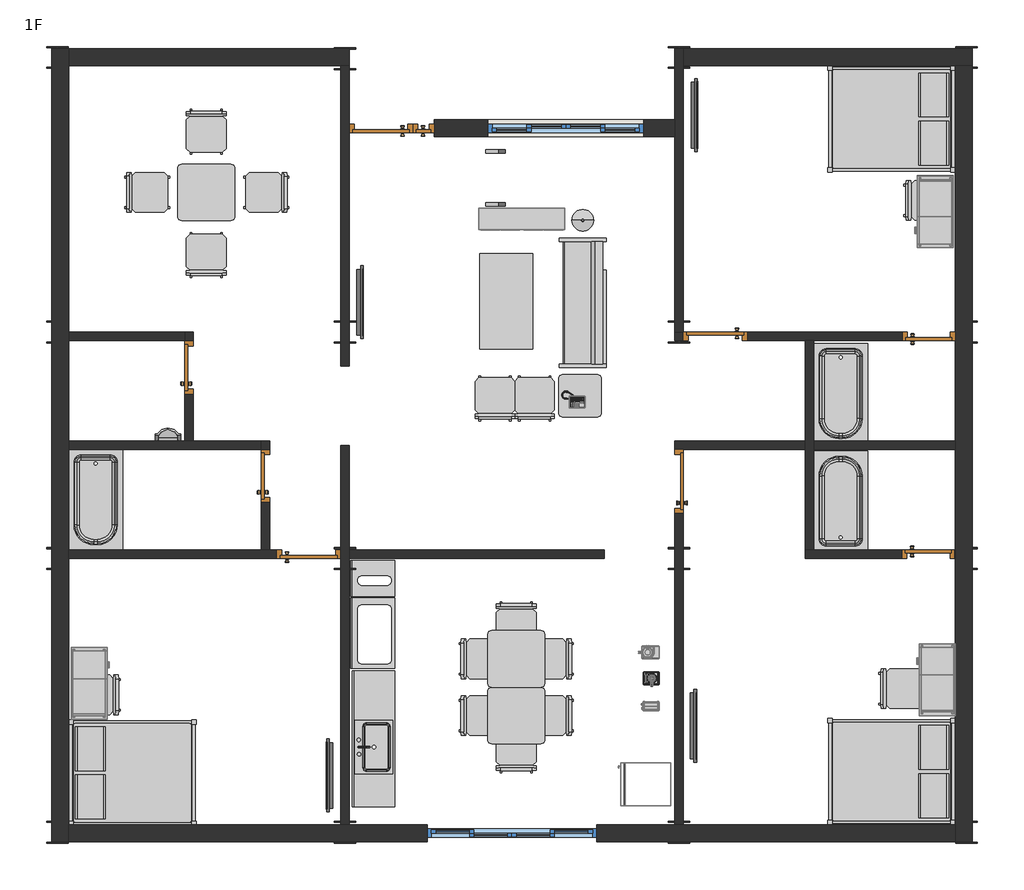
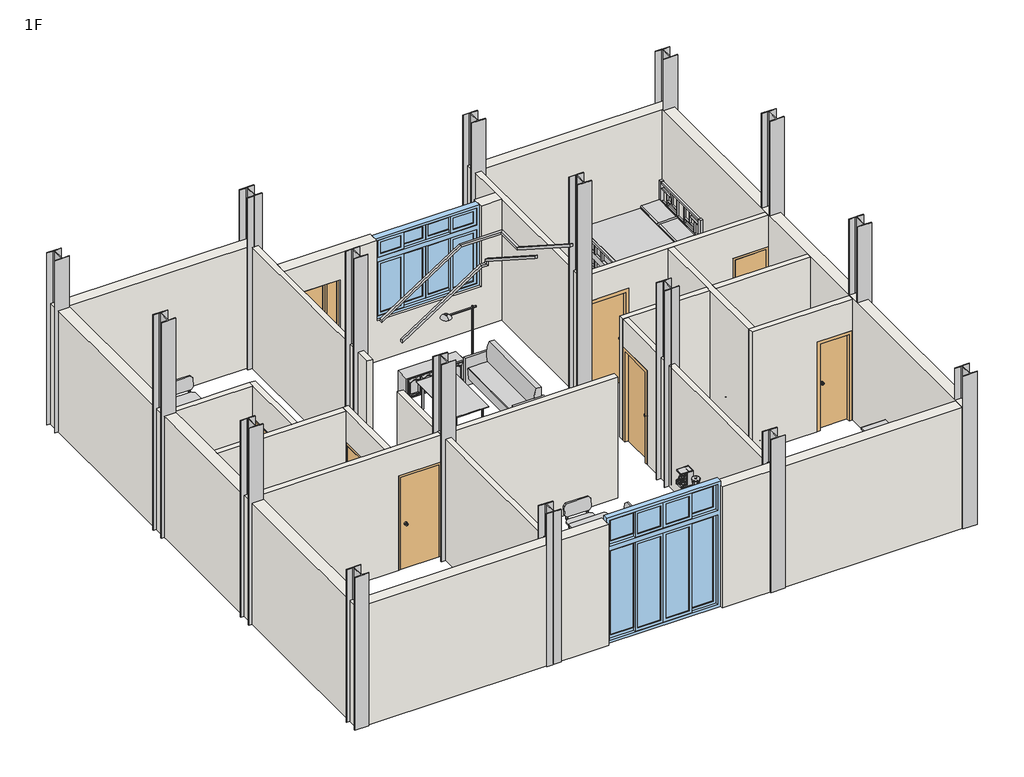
# One storey, incomplete: 31 furniture elements, 19 walls, 16 columns, 9 doors, 9 proxies, 4 flow terminals, 2 railings, 2 windows, 1 light fixture.
"""IFC4 building model written with IfcOpenShell, lengths in millimetres."""

from ifc_helpers import new_model, si_unit, point, frame, frame_2d, origin, origin_with_axes, place, context, project, spatial, polyline, circle_curve, trimmed, segment, composite_curve, outline, extrude, faceted_brep, transform, mapped, element, save
from components import specialty_equipment_52ff1dbe, specialty_equipment_45fd0e0a, specialty_equipment_c866d2f4, specialty_equipment_d125a757, specialty_equipment_4209ac2b, proxy_1030mm_ae075e29, proxy_1030mm_2e2320bc, uc_universal_column_column_100x200x97uc_fbc93eb8, uc_universal_column_column_100x200x97uc_c23a1a0a, uc_universal_column_column_100x200x97uc_8f00512b, uc_universal_column_column_100x200x97uc_f167816f, door_30_x_210_cm_06718960, door_75_x_200_cm_1c1e0038, door_75_x_200_cm_865d52c3, door_90_x_210_cm_a8ea8b61, door_90_x_210_cm_cb2f5c37, flow_terminal_5bd4dfce, flow_terminal_0a9030c2, flow_terminal_81ddfa0a, flow_terminal_4ae471c5, furniture_d72f1c28, furniture_8f68121f, furniture_4e1ab37b, furniture_edb10db8, furniture_984dc523, furniture_1500_x_1800mm_e6999785, furniture_1500_x_1800mm_307341c1, furniture_1830mm_a44c643f, furniture_60_x_60cm_7ca52646, furniture_80_x_80cm_8d78c78c, desk03_desk03_b31ff7f8, desk03_desk03_8cab2bc7, seating19_seating19_2658793b, seating19_seating19_12e8b1e3, light_fixture_4af38d8b, railing_ebe26a48, railing_cc37d2c5, window_220_x_180_cm_a244237b, window_240_x_300_cm_7bb334d8

model = new_model("IFC4")

# Units and contexts
model_context = context("Model", 3, world=origin())
ifc_project = project(units=[si_unit("LENGTHUNIT", "METRE", prefix="MILLI")], contexts=[model_context])

# Site, building, storey
site = spatial("IfcSite", under=ifc_project)
building = spatial("IfcBuilding", under=site)
storey = spatial("IfcBuildingStorey", under=building, Name="1F", Elevation=0.0)

# Proxies
placement = place(None, origin())
specialty_equipment_shape = specialty_equipment_52ff1dbe(model_context)
element("IfcBuildingElementProxy", 1, Name="Telephone04電話 : Telephone04電話", ObjectType="Telephone04電話 : Telephone04電話", at=placement, inside=storey, context=model_context, shape_type="MappedRepresentation", body=[
    mapped(specialty_equipment_shape, transform((741.7292845, 1034.8332542, 600.0), x_axis=(-1.0, 0.0, 0.0), y_axis=(0.0, -1.0, 0.0), z_axis=(0.0, 0.0, 1.0))),
])
specialty_equipment_2_shape = specialty_equipment_45fd0e0a(model_context)
element("IfcBuildingElementProxy", 2, Name="Refrigerator01冰箱 : Refrigerator01冰箱", ObjectType="Refrigerator01冰箱 : Refrigerator01冰箱", at=placement, inside=storey, context=model_context, shape_type="MappedRepresentation", body=[
    mapped(specialty_equipment_2_shape, transform((1952.7625889, -4145.0849984, 0.0), x_axis=(-1.0, 0.0, 0.0), y_axis=(0.0, -1.0, 0.0), z_axis=(0.0, 0.0, 1.0))),
])
specialty_equipment_3_shape = specialty_equipment_c866d2f4(model_context)
element("IfcBuildingElementProxy", 3, Name="咖啡機 : 咖啡機", ObjectType="咖啡機 : 咖啡機", at=placement, inside=storey, context=model_context, shape_type="MappedRepresentation", body=[
    mapped(specialty_equipment_3_shape, transform((1788.8313871, -2678.8167436, 880.0), x_axis=(0.0, 1.0, 0.0), y_axis=(-1.0, 0.0, 0.0), z_axis=(0.0, 0.0, 1.0))),
])
specialty_equipment_4_shape = specialty_equipment_d125a757(model_context)
element("IfcBuildingElementProxy", 4, Name="烤麵包機 : 烤麵包機", ObjectType="烤麵包機 : 烤麵包機", at=placement, inside=storey, context=model_context, shape_type="MappedRepresentation", body=[
    mapped(specialty_equipment_4_shape, transform((1788.8313871, -3278.8167436, 880.0), x_axis=(-1.0, 0.0, 0.0), y_axis=(0.0, -1.0, 0.0), z_axis=(0.0, 0.0, 1.0))),
])
specialty_equipment_5_shape = specialty_equipment_4209ac2b(model_context)
element("IfcBuildingElementProxy", 5, Name="果汁機 : 果汁機", ObjectType="果汁機 : 果汁機", at=placement, inside=storey, context=model_context, shape_type="MappedRepresentation", body=[
    mapped(specialty_equipment_5_shape, transform((1788.8313871, -2858.8167436, 880.0), x_axis=(-1.0, 0.0, 0.0), y_axis=(0.0, -1.0, 0.0), z_axis=(0.0, 0.0, 1.0))),
])
proxy_1030mm_shape = proxy_1030mm_ae075e29(model_context)
element("IfcBuildingElementProxy", 6, Name="電視 (2)-電漿 : 1030mm", ObjectType="電視 (2)-電漿 : 1030mm", at=placement, inside=storey, context=model_context, shape_type="MappedRepresentation", body=[
    mapped(proxy_1030mm_shape, transform((2238.6752533, 4949.0332564, 870.0), x_axis=(0.0, 0.9999999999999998, 0.0), y_axis=(-0.9999999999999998, 0.0, 0.0), z_axis=(0.0, 0.0, 1.0))),
])
element("IfcBuildingElementProxy", 7, Name="電視 (2)-電漿 : 1030mm", ObjectType="電視 (2)-電漿 : 1030mm", at=placement, inside=storey, context=model_context, shape_type="MappedRepresentation", body=[
    mapped(proxy_1030mm_shape, transform((-2821.0124791, -4266.6667436, 870.0), x_axis=(0.0, -0.9999999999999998, 0.0), y_axis=(0.9999999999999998, 0.0, 0.0), z_axis=(0.0, 0.0, 1.0))),
])
element("IfcBuildingElementProxy", 8, Name="電視 (2)-電漿 : 1030mm", ObjectType="電視 (2)-電漿 : 1030mm", at=placement, inside=storey, context=model_context, shape_type="MappedRepresentation", body=[
    mapped(proxy_1030mm_shape, transform((-2481.3247467, 2304.1344101, 870.0), x_axis=(0.0, 0.9999999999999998, 0.0), y_axis=(-0.9999999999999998, 0.0, 0.0), z_axis=(0.0, 0.0, 1.0))),
])
proxy_1030mm_2_shape = proxy_1030mm_2e2320bc(model_context)
element("IfcBuildingElementProxy", 9, Name="電視 (2)-電漿 : 1030mm", ObjectType="電視 (2)-電漿 : 1030mm", at=placement, inside=storey, context=model_context, shape_type="MappedRepresentation", body=[
    mapped(proxy_1030mm_2_shape, transform((2227.1349026, -3567.2667436, 870.0), x_axis=(0.0, -0.9999999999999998, 0.0), y_axis=(0.9999999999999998, 0.0, 0.0), z_axis=(0.0, 0.0, 1.0))),
])

# Columns
element("IfcColumn", 10, ObjectType="UC-Universal Column-Column : 100x200x97UC", at=placement, inside=storey, context=model_context, shape_type="SweptSolid", body=[
    extrude(outline(composite_curve([segment(polyline([(6281.4813871, -4973.4570793), (6281.4813871, -4988.8570793), (6148.9813871, -4988.8570793)]), True, "CONTINUOUS"), segment(trimmed(circle_curve(frame_2d((6148.9813871, -5004.0570793)), 15.2), [point((6148.9813871, -4988.8570793))], [point((6133.7813871, -5004.0570793))], True, "CARTESIAN"), True, "CONTINUOUS"), segment(polyline([(6133.7813871, -5004.0570793), (6133.7813871, -5250.7570793)]), True, "CONTINUOUS"), segment(trimmed(circle_curve(frame_2d((6148.9813871, -5250.7570793)), 15.2), [point((6133.7813871, -5250.7570793))], [point((6148.9813871, -5265.9570793))], True, "CARTESIAN"), True, "CONTINUOUS"), segment(polyline([(6148.9813871, -5265.9570793), (6281.4813871, -5265.9570793), (6281.4813871, -5281.3570793), (5976.1813871, -5281.3570793), (5976.1813871, -5265.9570793), (6108.6813871, -5265.9570793)]), True, "CONTINUOUS"), segment(trimmed(circle_curve(frame_2d((6108.6813871, -5250.7570793)), 15.2), [point((6108.6813871, -5265.9570793))], [point((6123.8813871, -5250.7570793))], True, "CARTESIAN"), True, "CONTINUOUS"), segment(polyline([(6123.8813871, -5250.7570793), (6123.8813871, -5004.0570793)]), True, "CONTINUOUS"), segment(trimmed(circle_curve(frame_2d((6108.6813871, -5004.0570793)), 15.2), [point((6123.8813871, -5004.0570793))], [point((6108.6813871, -4988.8570793))], True, "CARTESIAN"), True, "CONTINUOUS"), segment(polyline([(6108.6813871, -4988.8570793), (5976.1813871, -4988.8570793), (5976.1813871, -4973.4570793), (6281.4813871, -4973.4570793)]), True, "CONTINUOUS")], self_intersect=False)), origin_with_axes(), (0.0, 0.0, 1.0), 3410.0),
])
uc_universal_column_column_100x200x97uc_shape = uc_universal_column_column_100x200x97uc_fbc93eb8(model_context)
element("IfcColumn", 11, ObjectType="UC-Universal Column-Column : 100x200x97UC", at=placement, inside=storey, context=model_context, shape_type="MappedRepresentation", body=[
    mapped(uc_universal_column_column_100x200x97uc_shape, transform((-6711.1686129, 5821.1832564, 0.0), x_axis=(1.0, 0.0, 0.0), y_axis=(0.0, 1.0, 0.0), z_axis=(0.0, 0.0, 1.0))),
])
element("IfcColumn", 12, ObjectType="UC-Universal Column-Column : 100x200x97UC", at=placement, inside=storey, context=model_context, shape_type="MappedRepresentation", body=[
    mapped(uc_universal_column_column_100x200x97uc_shape, transform((-2651.1686129, 5801.1832564, 0.0), x_axis=(1.0, 0.0, 0.0), y_axis=(0.0, 1.0, 0.0), z_axis=(0.0, 0.0, 1.0))),
])
element("IfcColumn", 13, ObjectType="UC-Universal Column-Column : 100x200x97UC", at=placement, inside=storey, context=model_context, shape_type="MappedRepresentation", body=[
    mapped(uc_universal_column_column_100x200x97uc_shape, transform((2068.8313871, 5821.1832564, 0.0), x_axis=(1.0, 0.0, 0.0), y_axis=(0.0, 1.0, 0.0), z_axis=(0.0, 0.0, 1.0))),
])
element("IfcColumn", 14, ObjectType="UC-Universal Column-Column : 100x200x97UC", at=placement, inside=storey, context=model_context, shape_type="MappedRepresentation", body=[
    mapped(uc_universal_column_column_100x200x97uc_shape, transform((6128.8313871, 5821.1832564, 0.0), x_axis=(1.0, 0.0, 0.0), y_axis=(0.0, 1.0, 0.0), z_axis=(0.0, 0.0, 1.0))),
])
uc_universal_column_column_100x200x97uc_2_shape = uc_universal_column_column_100x200x97uc_c23a1a0a(model_context)
element("IfcColumn", 15, ObjectType="UC-Universal Column-Column : 100x200x97UC", at=placement, inside=storey, context=model_context, shape_type="MappedRepresentation", body=[
    mapped(uc_universal_column_column_100x200x97uc_2_shape, transform((6128.8313871, -1258.8167436, 0.0), x_axis=(1.0, 0.0, 0.0), y_axis=(0.0, 1.0, 0.0), z_axis=(0.0, 0.0, 1.0))),
])
element("IfcColumn", 16, ObjectType="UC-Universal Column-Column : 100x200x97UC", at=placement, inside=storey, context=model_context, shape_type="MappedRepresentation", body=[
    mapped(uc_universal_column_column_100x200x97uc_2_shape, transform((2068.8313871, -1258.8167436, 0.0), x_axis=(1.0, 0.0, 0.0), y_axis=(0.0, 1.0, 0.0), z_axis=(0.0, 0.0, 1.0))),
])
element("IfcColumn", 17, ObjectType="UC-Universal Column-Column : 100x200x97UC", at=placement, inside=storey, context=model_context, shape_type="MappedRepresentation", body=[
    mapped(uc_universal_column_column_100x200x97uc_2_shape, transform((-2651.1686129, -1258.8167436, 0.0), x_axis=(1.0, 0.0, 0.0), y_axis=(0.0, 1.0, 0.0), z_axis=(0.0, 0.0, 1.0))),
])
element("IfcColumn", 18, ObjectType="UC-Universal Column-Column : 100x200x97UC", at=placement, inside=storey, context=model_context, shape_type="MappedRepresentation", body=[
    mapped(uc_universal_column_column_100x200x97uc_2_shape, transform((-6711.1686129, -1258.8167436, 0.0), x_axis=(1.0, 0.0, 0.0), y_axis=(0.0, 1.0, 0.0), z_axis=(0.0, 0.0, 1.0))),
])
uc_universal_column_column_100x200x97uc_3_shape = uc_universal_column_column_100x200x97uc_8f00512b(model_context)
element("IfcColumn", 19, ObjectType="UC-Universal Column-Column : 100x200x97UC", at=placement, inside=storey, context=model_context, shape_type="MappedRepresentation", body=[
    mapped(uc_universal_column_column_100x200x97uc_3_shape, transform((2068.8313871, -5127.4070793, 0.0), x_axis=(1.0, 0.0, 0.0), y_axis=(0.0, 1.0, 0.0), z_axis=(0.0, 0.0, 1.0))),
])
element("IfcColumn", 20, ObjectType="UC-Universal Column-Column : 100x200x97UC", at=placement, inside=storey, context=model_context, shape_type="MappedRepresentation", body=[
    mapped(uc_universal_column_column_100x200x97uc_3_shape, transform((-6711.1686129, -5127.4070793, 0.0), x_axis=(1.0, 0.0, 0.0), y_axis=(0.0, 1.0, 0.0), z_axis=(0.0, 0.0, 1.0))),
])
element("IfcColumn", 21, ObjectType="UC-Universal Column-Column : 100x200x97UC", at=placement, inside=storey, context=model_context, shape_type="MappedRepresentation", body=[
    mapped(uc_universal_column_column_100x200x97uc_3_shape, transform((-2651.1686129, -5127.4070793, 0.0), x_axis=(1.0, 0.0, 0.0), y_axis=(0.0, 1.0, 0.0), z_axis=(0.0, 0.0, 1.0))),
])
uc_universal_column_column_100x200x97uc_4_shape = uc_universal_column_column_100x200x97uc_f167816f(model_context)
element("IfcColumn", 22, ObjectType="UC-Universal Column-Column : 100x200x97UC", at=placement, inside=storey, context=model_context, shape_type="MappedRepresentation", body=[
    mapped(uc_universal_column_column_100x200x97uc_4_shape, transform((-6711.1686129, 1941.1832564, 0.0), x_axis=(1.0, 0.0, 0.0), y_axis=(0.0, 1.0, 0.0), z_axis=(0.0, 0.0, 1.0))),
])
element("IfcColumn", 23, ObjectType="UC-Universal Column-Column : 100x200x97UC", at=placement, inside=storey, context=model_context, shape_type="MappedRepresentation", body=[
    mapped(uc_universal_column_column_100x200x97uc_4_shape, transform((-2651.1686129, 1941.1832564, 0.0), x_axis=(1.0, 0.0, 0.0), y_axis=(0.0, 1.0, 0.0), z_axis=(0.0, 0.0, 1.0))),
])
element("IfcColumn", 24, ObjectType="UC-Universal Column-Column : 100x200x97UC", at=placement, inside=storey, context=model_context, shape_type="MappedRepresentation", body=[
    mapped(uc_universal_column_column_100x200x97uc_4_shape, transform((2068.8313871, 1941.1832564, 0.0), x_axis=(1.0, 0.0, 0.0), y_axis=(0.0, 1.0, 0.0), z_axis=(0.0, 0.0, 1.0))),
])
element("IfcColumn", 25, ObjectType="UC-Universal Column-Column : 100x200x97UC", at=placement, inside=storey, context=model_context, shape_type="MappedRepresentation", body=[
    mapped(uc_universal_column_column_100x200x97uc_4_shape, transform((6128.8313871, 1941.1832564, 0.0), x_axis=(1.0, 0.0, 0.0), y_axis=(0.0, 1.0, 0.0), z_axis=(0.0, 0.0, 1.0))),
])

# Doors
door_30_x_210_cm_shape = door_30_x_210_cm_06718960(model_context)
element("IfcDoor", 26, ObjectType="單開-矩形- (1) : 30 x 210 cm", at=placement, inside=storey, context=model_context, shape_type="MappedRepresentation", body=[
    mapped(door_30_x_210_cm_shape, transform((-1541.1686129, 4611.1832564, 0.0), x_axis=(-1.0, 0.0, 0.0), y_axis=(0.0, -1.0, 0.0), z_axis=(0.0, 0.0, 1.0))),
])
door_75_x_200_cm_shape = door_75_x_200_cm_1c1e0038(model_context)
element("IfcDoor", 27, ObjectType="單開-矩形- (1) : 75 x 200 cm", at=placement, inside=storey, context=model_context, shape_type="MappedRepresentation", body=[
    mapped(door_75_x_200_cm_shape, transform((5588.8313871, -988.8167436, 0.0), x_axis=(-1.0, 0.0, 0.0), y_axis=(0.0, -1.0, 0.0), z_axis=(0.0, 0.0, 1.0))),
])
element("IfcDoor", 28, ObjectType="單開-矩形- (1) : 75 x 200 cm", at=placement, inside=storey, context=model_context, shape_type="MappedRepresentation", body=[
    mapped(door_75_x_200_cm_shape, transform((-5061.1686129, 1441.1832564, 0.0), x_axis=(0.0, -1.0, 0.0), y_axis=(1.0, 0.0, 0.0), z_axis=(0.0, 0.0, 1.0))),
])
element("IfcDoor", 29, ObjectType="單開-矩形- (1) : 75 x 200 cm", at=placement, inside=storey, context=model_context, shape_type="MappedRepresentation", body=[
    mapped(door_75_x_200_cm_shape, transform((-3981.1686129, -93.8167436, 0.0), x_axis=(0.0, -1.0, 0.0), y_axis=(1.0, 0.0, 0.0), z_axis=(0.0, 0.0, 1.0))),
])
door_75_x_200_cm_2_shape = door_75_x_200_cm_865d52c3(model_context)
element("IfcDoor", 30, ObjectType="單開-矩形- (1) : 75 x 200 cm", at=placement, inside=storey, context=model_context, shape_type="MappedRepresentation", body=[
    mapped(door_75_x_200_cm_2_shape, transform((5593.8313871, 1671.1832564, 0.0), x_axis=(-1.0, 0.0, 0.0), y_axis=(0.0, -1.0, 0.0), z_axis=(0.0, 0.0, 1.0))),
])
door_90_x_210_cm_shape = door_90_x_210_cm_a8ea8b61(model_context)
element("IfcDoor", 31, ObjectType="單開-矩形- (1) : 90 x 210 cm", at=placement, inside=storey, context=model_context, shape_type="MappedRepresentation", body=[
    mapped(door_90_x_210_cm_shape, transform((-2141.1686129, 4611.1832564, 0.0), x_axis=(1.0, 0.0, 0.0), y_axis=(0.0, 1.0, 0.0), z_axis=(0.0, 0.0, 1.0))),
])
door_90_x_210_cm_2_shape = door_90_x_210_cm_cb2f5c37(model_context)
element("IfcDoor", 32, ObjectType="單開-矩形- (1) : 90 x 210 cm", at=placement, inside=storey, context=model_context, shape_type="MappedRepresentation", body=[
    mapped(door_90_x_210_cm_2_shape, transform((-3161.1686129, -1408.8167436, 0.0), x_axis=(-1.0, 0.0, 0.0), y_axis=(0.0, -1.0, 0.0), z_axis=(0.0, 0.0, 1.0))),
])
element("IfcDoor", 33, ObjectType="單開-矩形- (1) : 90 x 210 cm", at=placement, inside=storey, context=model_context, shape_type="MappedRepresentation", body=[
    mapped(door_90_x_210_cm_2_shape, transform((2578.8313871, 2091.1832564, 0.0), x_axis=(1.0, 0.0, 0.0), y_axis=(0.0, 1.0, 0.0), z_axis=(0.0, 0.0, 1.0))),
])
element("IfcDoor", 34, ObjectType="單開-矩形- (1) : 90 x 210 cm", at=placement, inside=storey, context=model_context, shape_type="MappedRepresentation", body=[
    mapped(door_90_x_210_cm_2_shape, transform((2278.8313871, -168.8167436, 0.0), x_axis=(0.0, -1.0, 0.0), y_axis=(1.0, 0.0, 0.0), z_axis=(0.0, 0.0, 1.0))),
])

# Flow terminals
flow_terminal_shape = flow_terminal_5bd4dfce(model_context)
element("IfcFlowTerminal", 35, ObjectType="小便斗 (2)-含牆 : 小便斗 (2)-含牆", at=placement, inside=storey, context=model_context, shape_type="MappedRepresentation", body=[
    mapped(flow_terminal_shape, transform((-5040.4083618, 341.1832564, 0.0), x_axis=(1.0, 0.0, 0.0), y_axis=(0.0, 1.0, 0.0), z_axis=(0.0, 0.0, 1.0))),
])
flow_terminal_2_shape = flow_terminal_0a9030c2(model_context)
element("IfcFlowTerminal", 36, ObjectType="浴缸-矩形(含牆) : 浴缸-矩形(含牆)", at=placement, inside=storey, context=model_context, shape_type="MappedRepresentation", body=[
    mapped(flow_terminal_2_shape, transform((-6671.1686129, -829.4197123, 0.0), x_axis=(0.0, -1.0, 0.0), y_axis=(1.0, 0.0, 0.0), z_axis=(0.0, 0.0, 1.0))),
])
flow_terminal_3_shape = flow_terminal_81ddfa0a(model_context)
element("IfcFlowTerminal", 37, ObjectType="浴缸-矩形(含牆) : 浴缸-矩形(含牆)", at=placement, inside=storey, context=model_context, shape_type="MappedRepresentation", body=[
    mapped(flow_terminal_3_shape, transform((3908.8313871, 670.5802877, 0.0), x_axis=(0.0, -1.0, 0.0), y_axis=(1.0, 0.0, 0.0), z_axis=(0.0, 0.0, 1.0))),
])
flow_terminal_4_shape = flow_terminal_4ae471c5(model_context)
element("IfcFlowTerminal", 38, ObjectType="浴缸-矩形(含牆) : 浴缸-矩形(含牆)", at=placement, inside=storey, context=model_context, shape_type="MappedRepresentation", body=[
    mapped(flow_terminal_4_shape, transform((3908.8313871, -48.2137748, 0.0), x_axis=(0.0, 1.0, 0.0), y_axis=(-1.0, 0.0, 0.0), z_axis=(0.0, 0.0, 1.0))),
])

# Furniture
furniture_shape = furniture_d72f1c28(model_context)
element("IfcFurniture", 39, ObjectType="桌 (2)-方型玻璃 : 大茶几-135 x 75 x 60cm", at=placement, inside=storey, context=model_context, shape_type="MappedRepresentation", body=[
    mapped(furniture_shape, transform((-318.2520372, 1602.4785296, 0.0), x_axis=(1.0, 0.0, 0.0), y_axis=(0.0, 1.0, 0.0), z_axis=(0.0, 0.0, 1.0))),
])
furniture_2_shape = furniture_8f68121f(model_context)
element("IfcFurniture", 40, ObjectType="Wall Cabinet 4 Door 48x12x18鞋櫃4門L122xW30xH46 : Wall Cabinet 4 Door 48x12x18鞋櫃4門L122xW30xH46", at=placement, inside=storey, context=model_context, shape_type="MappedRepresentation", body=[
    mapped(furniture_2_shape, transform((-762.5618561, 3693.5687618, 0.0), x_axis=(0.0, -1.0, 0.0), y_axis=(1.0, 0.0, 0.0), z_axis=(0.0, 0.0, 1.0))),
])
furniture_3_shape = furniture_4e1ab37b(model_context)
element("IfcFurniture", 41, ObjectType="流理台面 (1)-方型孔 : 600mm 深", at=placement, inside=storey, context=model_context, shape_type="MappedRepresentation", body=[
    mapped(furniture_3_shape, transform((-2571.0402864, -1544.0286072, 180.0), x_axis=(0.0, 1.0, 0.0), y_axis=(-1.0, 0.0, 0.0), z_axis=(0.0, 0.0, 1.0))),
])
furniture_4_shape = furniture_edb10db8(model_context)
element("IfcFurniture", 42, ObjectType="流理台面 (3)-含水槽 : 600mm 深", at=placement, inside=storey, context=model_context, shape_type="MappedRepresentation", body=[
    mapped(furniture_4_shape, transform((-2546.0402864, -3567.7602764, 0.0), x_axis=(0.0, 1.0, 0.0), y_axis=(-1.0, 0.0, 0.0), z_axis=(0.0, 0.0, 1.0))),
])
furniture_5_shape = furniture_984dc523(model_context)
element("IfcFurniture", 43, ObjectType="流理台面 (1)-方型孔 : 600mm 深", at=placement, inside=storey, context=model_context, shape_type="MappedRepresentation", body=[
    mapped(furniture_5_shape, transform((-2571.0402864, -525.3610809, 180.0), x_axis=(0.0, 1.0, 0.0), y_axis=(-1.0, 0.0, 0.0), z_axis=(0.0, 0.0, 1.0))),
])
furniture_1500_x_1800mm_shape = furniture_1500_x_1800mm_e6999785(model_context)
element("IfcFurniture", 44, ObjectType="床 (6)-雙人含床架 : 1500 x 1800mm", at=placement, inside=storey, context=model_context, shape_type="MappedRepresentation", body=[
    mapped(furniture_1500_x_1800mm_shape, transform((5968.8313871, 4951.1832564, 0.0), x_axis=(0.0, 1.0000000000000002, 0.0), y_axis=(-1.0000000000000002, 0.0, 0.0), z_axis=(0.0, 0.0, 1.0))),
])
element("IfcFurniture", 45, ObjectType="床 (6)-雙人含床架 : 1500 x 1800mm", at=placement, inside=storey, context=model_context, shape_type="MappedRepresentation", body=[
    mapped(furniture_1500_x_1800mm_shape, transform((-6551.1686129, -4286.8223339, 0.0), x_axis=(0.0, -1.0000000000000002, 0.0), y_axis=(1.0000000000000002, 0.0, 0.0), z_axis=(0.0, 0.0, 1.0))),
])
furniture_1500_x_1800mm_2_shape = furniture_1500_x_1800mm_307341c1(model_context)
element("IfcFurniture", 46, ObjectType="床 (6)-雙人含床架 : 1500 x 1800mm", at=placement, inside=storey, context=model_context, shape_type="MappedRepresentation", body=[
    mapped(furniture_1500_x_1800mm_2_shape, transform((5968.8313871, -4268.8167436, 0.0), x_axis=(0.0, -1.0000000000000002, 0.0), y_axis=(1.0000000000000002, 0.0, 0.0), z_axis=(0.0, 0.0, 1.0))),
])
furniture_1830mm_shape = furniture_1830mm_a44c643f(model_context)
element("IfcFurniture", 47, ObjectType="沙發 (2) : 1830mm", at=placement, inside=storey, context=model_context, shape_type="MappedRepresentation", body=[
    mapped(furniture_1830mm_shape, transform((562.6772888, 2426.5537483, 0.0), x_axis=(0.0, -1.0, 0.0), y_axis=(1.0, 0.0, 0.0), z_axis=(0.0, 0.0, 1.0))),
])
furniture_60_x_60cm_shape = furniture_60_x_60cm_7ca52646(model_context)
element("IfcFurniture", 48, ObjectType="桌 (3)-方型 : 60 x 60cm", at=placement, inside=storey, context=model_context, shape_type="MappedRepresentation", body=[
    mapped(furniture_60_x_60cm_shape, transform((365.0977568, 888.7832564, 0.0), x_axis=(1.0, 0.0, 0.0), y_axis=(0.0, 1.0, 0.0), z_axis=(0.0, 0.0, 1.0))),
])
furniture_80_x_80cm_shape = furniture_80_x_80cm_8d78c78c(model_context)
element("IfcFurniture", 49, ObjectType="桌 (3)-方型 : 80 x 80cm", at=placement, inside=storey, context=model_context, shape_type="MappedRepresentation", body=[
    mapped(furniture_80_x_80cm_shape, transform((-78.7686129, -3080.347579, 0.0), x_axis=(0.0, 1.0, 0.0), y_axis=(-1.0, 0.0, 0.0), z_axis=(0.0, 0.0, 1.0))),
])
element("IfcFurniture", 50, ObjectType="桌 (3)-方型 : 80 x 80cm", at=placement, inside=storey, context=model_context, shape_type="MappedRepresentation", body=[
    mapped(furniture_80_x_80cm_shape, transform((-78.7686129, -3880.347579, 0.0), x_axis=(0.0, 1.0, 0.0), y_axis=(-1.0, 0.0, 0.0), z_axis=(0.0, 0.0, 1.0))),
])
element("IfcFurniture", 51, ObjectType="桌 (3)-方型 : 80 x 80cm", at=placement, inside=storey, context=model_context, shape_type="MappedRepresentation", body=[
    mapped(furniture_80_x_80cm_shape, transform((-4456.1147744, 3511.0757779, 0.0), x_axis=(0.0, 1.0, 0.0), y_axis=(-1.0, 0.0, 0.0), z_axis=(0.0, 0.0, 1.0))),
])
desk03_desk03_shape = desk03_desk03_b31ff7f8(model_context)
element("IfcFurniture", 52, ObjectType="Desk03 : Desk03", at=placement, inside=storey, context=model_context, shape_type="MappedRepresentation", body=[
    mapped(desk03_desk03_shape, transform((5941.4156351, 4147.2734798, 0.0), x_axis=(-1.0, 0.0, 0.0), y_axis=(0.0, -1.0, 0.0), z_axis=(0.0, 0.0, 1.0))),
])
element("IfcFurniture", 53, ObjectType="Desk03 : Desk03", at=placement, inside=storey, context=model_context, shape_type="MappedRepresentation", body=[
    mapped(desk03_desk03_shape, transform((-6518.1420075, -3531.1700289, 0.0), x_axis=(1.0, 0.0, 0.0), y_axis=(0.0, 1.0, 0.0), z_axis=(0.0, 0.0, 1.0))),
])
desk03_desk03_2_shape = desk03_desk03_8cab2bc7(model_context)
element("IfcFurniture", 54, ObjectType="Desk03 : Desk03", at=placement, inside=storey, context=model_context, shape_type="MappedRepresentation", body=[
    mapped(desk03_desk03_2_shape, transform((5968.8313871, -3478.8167436, 0.0), x_axis=(-1.0, 0.0, 0.0), y_axis=(0.0, -1.0, 0.0), z_axis=(0.0, 0.0, 1.0))),
])
seating19_seating19_shape = seating19_seating19_2658793b(model_context)
element("IfcFurniture", 55, ObjectType="Seating19 : Seating19", at=placement, inside=storey, context=model_context, shape_type="MappedRepresentation", body=[
    mapped(seating19_seating19_shape, transform((28.8313871, 1296.1832564, 0.0), x_axis=(0.0, 1.0, 0.0), y_axis=(-1.0, 0.0, 0.0), z_axis=(0.0, 0.0, 1.0))),
])
element("IfcFurniture", 56, ObjectType="Seating19 : Seating19", at=placement, inside=storey, context=model_context, shape_type="MappedRepresentation", body=[
    mapped(seating19_seating19_shape, transform((-531.1686129, 1296.1832564, 0.0), x_axis=(0.0, 1.0, 0.0), y_axis=(-1.0, 0.0, 0.0), z_axis=(0.0, 0.0, 1.0))),
])
element("IfcFurniture", 57, ObjectType="Seating19 : Seating19", at=placement, inside=storey, context=model_context, shape_type="MappedRepresentation", body=[
    mapped(seating19_seating19_shape, transform((5853.4156351, 3801.2734798, 0.0), x_axis=(1.0, 0.0, 0.0), y_axis=(0.0, 1.0, 0.0), z_axis=(0.0, 0.0, 1.0))),
])
element("IfcFurniture", 58, ObjectType="Seating19 : Seating19", at=placement, inside=storey, context=model_context, shape_type="MappedRepresentation", body=[
    mapped(seating19_seating19_shape, transform((-34.3686129, -3476.6139487, 0.0), x_axis=(-1.0, 0.0, 0.0), y_axis=(0.0, -1.0, 0.0), z_axis=(0.0, 0.0, 1.0))),
])
element("IfcFurniture", 59, ObjectType="Seating19 : Seating19", at=placement, inside=storey, context=model_context, shape_type="MappedRepresentation", body=[
    mapped(seating19_seating19_shape, transform((-34.3686129, -2676.6139487, 0.0), x_axis=(-1.0, 0.0, 0.0), y_axis=(0.0, -1.0, 0.0), z_axis=(0.0, 0.0, 1.0))),
])
element("IfcFurniture", 60, ObjectType="Seating19 : Seating19", at=placement, inside=storey, context=model_context, shape_type="MappedRepresentation", body=[
    mapped(seating19_seating19_shape, transform((-231.1686129, -2479.8139487, 0.0), x_axis=(0.0, -1.0, 0.0), y_axis=(1.0, 0.0, 0.0), z_axis=(0.0, 0.0, 1.0))),
])
element("IfcFurniture", 61, ObjectType="Seating19 : Seating19", at=placement, inside=storey, context=model_context, shape_type="MappedRepresentation", body=[
    mapped(seating19_seating19_shape, transform((-427.9686129, -2676.6139487, 0.0), x_axis=(1.0, 0.0, 0.0), y_axis=(0.0, 1.0, 0.0), z_axis=(0.0, 0.0, 1.0))),
])
element("IfcFurniture", 62, ObjectType="Seating19 : Seating19", at=placement, inside=storey, context=model_context, shape_type="MappedRepresentation", body=[
    mapped(seating19_seating19_shape, transform((-427.9686129, -3476.6139487, 0.0), x_axis=(1.0, 0.0, 0.0), y_axis=(0.0, 1.0, 0.0), z_axis=(0.0, 0.0, 1.0))),
])
element("IfcFurniture", 63, ObjectType="Seating19 : Seating19", at=placement, inside=storey, context=model_context, shape_type="MappedRepresentation", body=[
    mapped(seating19_seating19_shape, transform((-231.1686129, -3673.4139487, 0.0), x_axis=(0.0, 1.0000000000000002, 0.0), y_axis=(-1.0000000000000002, 0.0, 0.0), z_axis=(0.0, 0.0, 1.0))),
])
element("IfcFurniture", 64, ObjectType="Seating19 : Seating19", at=placement, inside=storey, context=model_context, shape_type="MappedRepresentation", body=[
    mapped(seating19_seating19_shape, transform((-6430.1420075, -3185.1700289, 0.0), x_axis=(-1.0, 0.0, 0.0), y_axis=(0.0, -1.0, 0.0), z_axis=(0.0, 0.0, 1.0))),
])
element("IfcFurniture", 65, ObjectType="Seating19 : Seating19", at=placement, inside=storey, context=model_context, shape_type="MappedRepresentation", body=[
    mapped(seating19_seating19_shape, transform((-4051.1686129, 3914.8094081, 0.0), x_axis=(-1.0, 0.0, 0.0), y_axis=(0.0, -1.0, 0.0), z_axis=(0.0, 0.0, 1.0))),
])
element("IfcFurniture", 66, ObjectType="Seating19 : Seating19", at=placement, inside=storey, context=model_context, shape_type="MappedRepresentation", body=[
    mapped(seating19_seating19_shape, transform((-4608.5147744, 4481.1832564, 0.0), x_axis=(0.0, -1.0, 0.0), y_axis=(1.0, 0.0, 0.0), z_axis=(0.0, 0.0, 1.0))),
])
element("IfcFurniture", 67, ObjectType="Seating19 : Seating19", at=placement, inside=storey, context=model_context, shape_type="MappedRepresentation", body=[
    mapped(seating19_seating19_shape, transform((-5151.1686129, 3914.8094081, 0.0), x_axis=(1.0, 0.0, 0.0), y_axis=(0.0, 1.0, 0.0), z_axis=(0.0, 0.0, 1.0))),
])
element("IfcFurniture", 68, ObjectType="Seating19 : Seating19", at=placement, inside=storey, context=model_context, shape_type="MappedRepresentation", body=[
    mapped(seating19_seating19_shape, transform((-4608.5147744, 3321.1832564, 0.0), x_axis=(0.0, 1.0000000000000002, 0.0), y_axis=(-1.0000000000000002, 0.0, 0.0), z_axis=(0.0, 0.0, 1.0))),
])
seating19_seating19_2_shape = seating19_seating19_12e8b1e3(model_context)
element("IfcFurniture", 69, ObjectType="Seating19 : Seating19", at=placement, inside=storey, context=model_context, shape_type="MappedRepresentation", body=[
    mapped(seating19_seating19_2_shape, transform((5500.4312829, -3098.8167436, 0.0), x_axis=(1.0, 0.0, 0.0), y_axis=(0.0, 1.0, 0.0), z_axis=(0.0, 0.0, 1.0))),
])

# Light fixture
light_fixture_shape = light_fixture_4af38d8b(model_context)
element("IfcLightFixture", 70, ObjectType="立燈 (4)-單臂式 : 150 瓦鹵素燈", at=placement, inside=storey, context=model_context, shape_type="MappedRepresentation", body=[
    mapped(light_fixture_shape, transform((707.6313871, 3521.1832564, 0.0), x_axis=(0.0, 1.0, 0.0), y_axis=(-1.0, 0.0, 0.0), z_axis=(0.0, 0.0, 1.0))),
])

# Railings
railing_shape = railing_ebe26a48(model_context)
element("IfcRailing", 71, ObjectType="900mm 方管", at=placement, inside=storey, context=model_context, shape_type="MappedRepresentation", body=[
    mapped(railing_shape, transform((0.0, 0.0, 0.0), x_axis=(1.0, 0.0, 0.0), y_axis=(0.0, 1.0, 0.0), z_axis=(0.0, 0.0, 1.0))),
])
railing_2_shape = railing_cc37d2c5(model_context)
element("IfcRailing", 72, ObjectType="900mm 方管", at=placement, inside=storey, context=model_context, shape_type="MappedRepresentation", body=[
    mapped(railing_2_shape, transform((0.0, 0.0, 0.0), x_axis=(1.0, 0.0, 0.0), y_axis=(0.0, 1.0, 0.0), z_axis=(0.0, 0.0, 1.0))),
])

# Walls
element("IfcWall", 73, ObjectType="RC 牆 24cM", at=placement, inside=storey, context=model_context, shape_type="Brep", body=[
    faceted_brep([(2128.8313871, 5701.1832564, 0.0), (5968.8313871, 5701.1832564, 0.0), (6208.8313871, 5701.1832564, 0.0), (6208.8313871, 5701.1832564, 2700.0), (5968.8313871, 5701.1832564, 2700.0), (2128.8313871, 5701.1832564, 2700.0), (2128.8313871, 5941.1832564, 0.0), (2128.8313871, 5941.1832564, 2700.0), (6208.8313871, 5941.1832564, 2700.0), (6208.8313871, 5941.1832564, 0.0)], [[[0, 1, 2, 3, 4, 5]], [[6, 7, 8, 9]], [[2, 1, 0, 6, 9]], [[5, 4, 3, 8, 7]], [[3, 2, 9, 8]], [[0, 5, 7, 6]]]),
])
element("IfcWall", 74, ObjectType="RC 牆 24cM", at=placement, inside=storey, context=model_context, shape_type="SweptSolid", body=[
    extrude(outline(polyline([(5968.8313871, -5258.8167436), (5968.8313871, 5701.1832564), (6208.8313871, 5701.1832564), (6208.8313871, -5258.8167436), (5968.8313871, -5258.8167436)])), origin_with_axes(), (0.0, 0.0, 1.0), 2700.0),
])
element("IfcWall", 75, ObjectType="RC 牆 24cM", at=placement, inside=storey, context=model_context, shape_type="Brep", body=[
    faceted_brep([(-6551.1686129, -5258.8167436, 0.0), (-6551.1686129, 5701.1832564, 0.0), (-6551.1686129, 5941.1832564, 0.0), (-6551.1686129, 5941.1832564, 2700.0), (-6551.1686129, 5701.1832564, 2700.0), (-6551.1686129, -5258.8167436, 2700.0), (-6791.1686129, -5258.8167436, 0.0), (-6791.1686129, -5258.8167436, 2700.0), (-6791.1686129, 5941.1832564, 2700.0), (-6791.1686129, 5941.1832564, 0.0)], [[[0, 1, 2, 3, 4, 5]], [[6, 7, 8, 9]], [[2, 1, 0, 6, 9]], [[5, 4, 3, 8, 7]], [[3, 2, 9, 8]], [[0, 5, 7, 6]]]),
])
element("IfcWall", 76, ObjectType="RC 牆 24cM", at=placement, inside=storey, context=model_context, shape_type="SweptSolid", body=[
    extrude(outline(polyline([(0.0, 2008.8313871), (2700.0, 2008.8313871), (2700.0, 1568.8313871), (900.0, 1568.8313871), (900.0, -631.1686129), (2700.0, -631.1686129), (2700.0, -2591.1686129), (2100.0, -2591.1686129), (2100.0, -1391.1686129), (0.0, -1391.1686129), (0.0, 2008.8313871)])), frame((0.0, 4701.1832564, 0.0), z_axis=(0.0, 1.0, 0.0), x_axis=(0.0, 0.0, 1.0)), (0.0, 0.0, 1.0), 240.0),
])
element("IfcWall", 77, ObjectType="RC 牆 24cM", at=placement, inside=storey, context=model_context, shape_type="Brep", body=[
    faceted_brep([(-6551.1686129, 5701.1832564, 0.0), (-2711.1686129, 5701.1832564, 0.0), (-2591.1686129, 5701.1832564, 0.0), (-2591.1686129, 5701.1832564, 2700.0), (-2711.1686129, 5701.1832564, 2700.0), (-6551.1686129, 5701.1832564, 2700.0), (-6551.1686129, 5941.1832564, 0.0), (-6551.1686129, 5941.1832564, 2700.0), (-2591.1686129, 5941.1832564, 2700.0), (-2591.1686129, 5941.1832564, 0.0)], [[[0, 1, 2, 3, 4, 5]], [[6, 7, 8, 9]], [[2, 1, 0, 6, 9]], [[5, 4, 3, 8, 7]], [[3, 2, 9, 8]], [[0, 5, 7, 6]]]),
])
element("IfcWall", 78, ObjectType="RC 牆 12cm", at=placement, inside=storey, context=model_context, shape_type="Brep", body=[
    faceted_brep([(-2711.1686129, 5701.1832564, 0.0), (-2711.1686129, 1461.2832564, 0.0), (-2711.1686129, 1461.2832564, 2700.0), (-2711.1686129, 5701.1832564, 2700.0), (-2591.1686129, 5701.1832564, 0.0), (-2591.1686129, 5701.1832564, 2700.0), (-2591.1686129, 4941.1832564, 2700.0), (-2591.1686129, 4701.1832564, 2700.0), (-2591.1686129, 1461.2832564, 2700.0), (-2591.1686129, 1461.2832564, 0.0)], [[[0, 1, 2, 3]], [[4, 5, 6, 7, 8, 9]], [[1, 0, 4, 9]], [[2, 1, 9, 8]], [[3, 2, 8, 7, 6, 5]], [[0, 3, 5, 4]]]),
])
element("IfcWall", 79, ObjectType="RC 牆 12cm", at=placement, inside=storey, context=model_context, shape_type="Brep", body=[
    faceted_brep([(2128.8313871, 1941.1832564, 0.0), (2128.8313871, 5701.1832564, 0.0), (2128.8313871, 5941.1832564, 0.0), (2128.8313871, 5941.1832564, 2700.0), (2128.8313871, 5701.1832564, 2700.0), (2128.8313871, 1941.1832564, 2700.0), (2008.8313871, 1941.1832564, 0.0), (2008.8313871, 1941.1832564, 2700.0), (2008.8313871, 4701.1832564, 2700.0), (2008.8313871, 4941.1832564, 2700.0), (2008.8313871, 5941.1832564, 2700.0), (2008.8313871, 5941.1832564, 0.0), (2008.8313871, 4941.1832564, 0.0), (2008.8313871, 4701.1832564, 0.0)], [[[0, 1, 2, 3, 4, 5]], [[6, 7, 8, 9, 10, 11, 12, 13]], [[2, 1, 0, 6, 13, 12, 11]], [[5, 4, 3, 10, 9, 8, 7]], [[3, 2, 11, 10]], [[0, 5, 7, 6]]]),
])
element("IfcWall", 80, ObjectType="RC 牆 12cm", at=placement, inside=storey, context=model_context, shape_type="SweptSolid", body=[
    extrude(outline(polyline([(-2711.1686129, -5018.8167436), (-2711.1686129, 341.1832564), (-2591.1686129, 341.1832564), (-2591.1686129, -5018.8167436), (-2711.1686129, -5018.8167436)])), origin_with_axes(), (0.0, 0.0, 1.0), 2700.0),
])
element("IfcWall", 81, ObjectType="RC 牆 12cm", at=placement, inside=storey, context=model_context, shape_type="SweptSolid", body=[
    extrude(outline(polyline([(-5018.8167436, 2700.0), (281.1832564, 2700.0), (281.1832564, 2100.0), (-618.8167436, 2100.0), (-618.8167436, 0.0), (-5018.8167436, 0.0), (-5018.8167436, 2700.0)])), frame((2008.8313871, 0.0, 0.0), z_axis=(1.0, 0.0, 0.0), x_axis=(0.0, 1.0, 0.0)), (0.0, 0.0, 1.0), 120.0),
])
element("IfcWall", 82, ObjectType="RC 牆 12cm", at=placement, inside=storey, context=model_context, shape_type="Brep", body=[
    faceted_brep([(3848.8313871, -1138.8167436, 2700.0), (3968.8313871, -1138.8167436, 2700.0), (5968.8313871, -1138.8167436, 2700.0), (5968.8313871, -1138.8167436, 0.0), (5963.8313871, -1138.8167436, 0.0), (5963.8313871, -1138.8167436, 2000.0), (5213.8313871, -1138.8167436, 2000.0), (5213.8313871, -1138.8167436, 0.0), (3968.8313871, -1138.8167436, 0.0), (3848.8313871, -1138.8167436, 0.0), (5968.8313871, -1258.8167436, 2700.0), (3848.8313871, -1258.8167436, 2700.0), (3848.8313871, -1258.8167436, 0.0), (5213.8313871, -1258.8167436, 0.0), (5213.8313871, -1258.8167436, 2000.0), (5963.8313871, -1258.8167436, 2000.0), (5963.8313871, -1258.8167436, 0.0), (5968.8313871, -1258.8167436, 0.0)], [[[0, 1, 2, 3, 4, 5, 6, 7, 8, 9]], [[10, 11, 12, 13, 14, 15, 16, 17]], [[12, 9, 8, 7, 13]], [[3, 17, 16, 4]], [[2, 1, 0, 11, 10]], [[0, 9, 12, 11]], [[3, 2, 10, 17]], [[6, 14, 13, 7]], [[14, 6, 5, 15]], [[15, 5, 4, 16]]]),
])
element("IfcWall", 83, ObjectType="RC 牆 12cm", at=placement, inside=storey, context=model_context, shape_type="Brep", body=[
    faceted_brep([(1008.8313871, -1138.8167436, 2700.0), (1008.8313871, -1138.8167436, 0.0), (-2591.1686129, -1138.8167436, 0.0), (-2591.1686129, -1138.8167436, 2700.0), (1008.8313871, -1258.8167436, 0.0), (1008.8313871, -1258.8167436, 2700.0), (-2591.1686129, -1258.8167436, 2700.0), (-2591.1686129, -1258.8167436, 0.0)], [[[0, 1, 2, 3]], [[4, 5, 6, 7]], [[1, 4, 7, 2]], [[5, 0, 3, 6]], [[1, 0, 5, 4]], [[3, 2, 7, 6]]]),
    faceted_brep([(-6551.1686129, -1138.8167436, 0.0), (-6551.1686129, -1138.8167436, 2700.0), (-3831.1686129, -1138.8167436, 2700.0), (-3711.1686129, -1138.8167436, 2700.0), (-2711.1686129, -1138.8167436, 2700.0), (-2711.1686129, -1138.8167436, 2100.0), (-3611.1686129, -1138.8167436, 2100.0), (-3611.1686129, -1138.8167436, 0.0), (-3711.1686129, -1138.8167436, 0.0), (-3831.1686129, -1138.8167436, 0.0), (-6551.1686129, -1258.8167436, 2700.0), (-6551.1686129, -1258.8167436, 0.0), (-3611.1686129, -1258.8167436, 0.0), (-3611.1686129, -1258.8167436, 2100.0), (-2711.1686129, -1258.8167436, 2100.0), (-2711.1686129, -1258.8167436, 2700.0)], [[[0, 1, 2, 3, 4, 5, 6, 7, 8, 9]], [[10, 11, 12, 13, 14, 15]], [[11, 0, 9, 8, 7, 12]], [[1, 10, 15, 4, 3, 2]], [[1, 0, 11, 10]], [[6, 13, 12, 7]], [[13, 6, 5, 14]], [[5, 4, 15, 14]]]),
])
element("IfcWall", 84, ObjectType="RC 牆 12cm", at=placement, inside=storey, context=model_context, shape_type="Brep", body=[
    faceted_brep([(5968.8313871, 1821.1832564, 2700.0), (3968.8313871, 1821.1832564, 2700.0), (3848.8313871, 1821.1832564, 2700.0), (2008.8313871, 1821.1832564, 2700.0), (2008.8313871, 1821.1832564, 0.0), (2128.8313871, 1821.1832564, 0.0), (2128.8313871, 1821.1832564, 2100.0), (3028.8313871, 1821.1832564, 2100.0), (3028.8313871, 1821.1832564, 0.0), (3848.8313871, 1821.1832564, 0.0), (3968.8313871, 1821.1832564, 0.0), (5218.8313871, 1821.1832564, 0.0), (5218.8313871, 1821.1832564, 2000.0), (5968.8313871, 1821.1832564, 2000.0), (2008.8313871, 1941.1832564, 2700.0), (5968.8313871, 1941.1832564, 2700.0), (5968.8313871, 1941.1832564, 2000.0), (5218.8313871, 1941.1832564, 2000.0), (5218.8313871, 1941.1832564, 0.0), (3028.8313871, 1941.1832564, 0.0), (3028.8313871, 1941.1832564, 2100.0), (2128.8313871, 1941.1832564, 2100.0), (2128.8313871, 1941.1832564, 0.0), (2008.8313871, 1941.1832564, 0.0)], [[[0, 1, 2, 3, 4, 5, 6, 7, 8, 9, 10, 11, 12, 13]], [[14, 15, 16, 17, 18, 19, 20, 21, 22, 23]], [[4, 23, 22, 5]], [[18, 11, 10, 9, 8, 19]], [[3, 2, 1, 0, 15, 14]], [[4, 3, 14, 23]], [[15, 0, 13, 16]], [[17, 12, 11, 18]], [[12, 17, 16, 13]], [[7, 20, 19, 8]], [[20, 7, 6, 21]], [[21, 6, 5, 22]]]),
])
element("IfcWall", 85, ObjectType="RC 牆 12cm", at=placement, inside=storey, context=model_context, shape_type="Brep", body=[
    faceted_brep([(3848.8313871, 1821.1832564, 0.0), (3848.8313871, 401.1832564, 0.0), (3848.8313871, 281.1832564, 0.0), (3848.8313871, -1138.8167436, 0.0), (3848.8313871, -1138.8167436, 2700.0), (3848.8313871, 281.1832564, 2700.0), (3848.8313871, 401.1832564, 2700.0), (3848.8313871, 1821.1832564, 2700.0), (3968.8313871, 1821.1832564, 0.0), (3968.8313871, 1821.1832564, 2700.0), (3968.8313871, 401.1832564, 2700.0), (3968.8313871, 281.1832564, 2700.0), (3968.8313871, -1138.8167436, 2700.0), (3968.8313871, -1138.8167436, 0.0), (3968.8313871, 281.1832564, 0.0), (3968.8313871, 401.1832564, 0.0)], [[[0, 1, 2, 3, 4, 5, 6, 7]], [[8, 9, 10, 11, 12, 13, 14, 15]], [[3, 2, 1, 0, 8, 15, 14, 13]], [[7, 6, 5, 4, 12, 11, 10, 9]], [[0, 7, 9, 8]], [[4, 3, 13, 12]]]),
])
element("IfcWall", 86, ObjectType="RC 牆 12cm", at=placement, inside=storey, context=model_context, shape_type="SweptSolid", body=[
    extrude(outline(polyline([(2008.8313871, 281.1832564), (2008.8313871, 401.1832564), (3848.8313871, 401.1832564), (3848.8313871, 281.1832564), (2008.8313871, 281.1832564)])), origin_with_axes(), (0.0, 0.0, 1.0), 2700.0),
    extrude(outline(polyline([(5968.8313871, 401.1832564), (5968.8313871, 281.1832564), (3968.8313871, 281.1832564), (3968.8313871, 401.1832564), (5968.8313871, 401.1832564)])), origin_with_axes(), (0.0, 0.0, 1.0), 2700.0),
])
element("IfcWall", 87, ObjectType="RC 牆 12cm", at=placement, inside=storey, context=model_context, shape_type="Brep", body=[
    faceted_brep([(-3831.1686129, -1138.8167436, 2700.0), (-3831.1686129, 281.1832564, 2700.0), (-3831.1686129, 401.1832564, 2700.0), (-3831.1686129, 401.1832564, 0.0), (-3831.1686129, 281.1832564, 0.0), (-3831.1686129, 281.1832564, 2000.0), (-3831.1686129, -468.8167436, 2000.0), (-3831.1686129, -468.8167436, 0.0), (-3831.1686129, -1138.8167436, 0.0), (-3711.1686129, 401.1832564, 2700.0), (-3711.1686129, -1138.8167436, 2700.0), (-3711.1686129, -1138.8167436, 0.0), (-3711.1686129, -468.8167436, 0.0), (-3711.1686129, -468.8167436, 2000.0), (-3711.1686129, 281.1832564, 2000.0), (-3711.1686129, 281.1832564, 0.0), (-3711.1686129, 401.1832564, 0.0)], [[[0, 1, 2, 3, 4, 5, 6, 7, 8]], [[9, 10, 11, 12, 13, 14, 15, 16]], [[3, 16, 15, 4]], [[11, 8, 7, 12]], [[2, 1, 0, 10, 9]], [[3, 2, 9, 16]], [[0, 8, 11, 10]], [[6, 13, 12, 7]], [[13, 6, 5, 14]], [[14, 5, 4, 15]]]),
])
element("IfcWall", 88, ObjectType="RC 牆 12cm", at=placement, inside=storey, context=model_context, shape_type="Brep", body=[
    faceted_brep([(-3831.1686129, 401.1832564, 0.0), (-6551.1686129, 401.1832564, 0.0), (-6551.1686129, 401.1832564, 2700.0), (-3831.1686129, 401.1832564, 2700.0), (-3831.1686129, 281.1832564, 0.0), (-3831.1686129, 281.1832564, 2000.0), (-3831.1686129, 281.1832564, 2700.0), (-6551.1686129, 281.1832564, 2700.0), (-6551.1686129, 281.1832564, 0.0)], [[[0, 1, 2, 3]], [[4, 5, 6, 7, 8]], [[1, 0, 4, 8]], [[3, 2, 7, 6]], [[2, 1, 8, 7]], [[0, 3, 6, 5, 4]]]),
])
element("IfcWall", 89, ObjectType="RC 牆 24cM", at=placement, inside=storey, context=model_context, shape_type="SweptSolid", body=[
    extrude(outline(polyline([(-6551.1686129, -5258.8167436), (-6551.1686129, -5018.8167436), (-1491.1686129, -5018.8167436), (-1491.1686129, -5258.8167436), (-6551.1686129, -5258.8167436)])), origin_with_axes(), (0.0, 0.0, 1.0), 2700.0),
    extrude(outline(polyline([(5968.8313871, -5018.8167436), (5968.8313871, -5258.8167436), (908.8313871, -5258.8167436), (908.8313871, -5018.8167436), (5968.8313871, -5018.8167436)])), origin_with_axes(), (0.0, 0.0, 1.0), 2700.0),
])
element("IfcWall", 90, ObjectType="RC 牆 12cm", at=placement, inside=storey, context=model_context, shape_type="SweptSolid", body=[
    extrude(outline(polyline([(401.1832564, 2700.0), (1941.1832564, 2700.0), (1941.1832564, 0.0), (1816.1832564, 0.0), (1816.1832564, 2000.0), (1066.1832564, 2000.0), (1066.1832564, 0.0), (401.1832564, 0.0), (401.1832564, 2700.0)])), frame((-4911.1686129, 0.0, 0.0), z_axis=(1.0, 0.0, 0.0), x_axis=(0.0, 1.0, 0.0)), (0.0, 0.0, 1.0), 120.0),
])
element("IfcWall", 91, ObjectType="RC 牆 12cm", at=placement, inside=storey, context=model_context, shape_type="SweptSolid", body=[
    extrude(outline(polyline([(-6551.1686129, 1941.1832564), (-4911.1686129, 1941.1832564), (-4911.1686129, 1821.1832564), (-6551.1686129, 1821.1832564), (-6551.1686129, 1941.1832564)])), origin_with_axes(), (0.0, 0.0, 1.0), 2700.0),
])

# Windows
window_220_x_180_cm_shape = window_220_x_180_cm_a244237b(model_context)
element("IfcWindow", 92, ObjectType="四開窗-含氣窗- (1) : 220 x 180 cm", at=placement, inside=storey, context=model_context, shape_type="MappedRepresentation", body=[
    mapped(window_220_x_180_cm_shape, transform((468.8313871, 5001.1832564, 0.0), x_axis=(1.0, 0.0, 0.0), y_axis=(0.0, 1.0, 0.0), z_axis=(0.0, 0.0, 1.0))),
])
window_240_x_300_cm_shape = window_240_x_300_cm_7bb334d8(model_context)
element("IfcWindow", 93, ObjectType="四開窗-含氣窗- (1) : 240 x 300 cm", at=placement, inside=storey, context=model_context, shape_type="MappedRepresentation", body=[
    mapped(window_240_x_300_cm_shape, transform((-291.1686129, -5318.8167436, -200.0), x_axis=(-1.0, 0.0, 0.0), y_axis=(0.0, -1.0, 0.0), z_axis=(0.0, 0.0, 1.0))),
])

save(model, "model.ifc")
